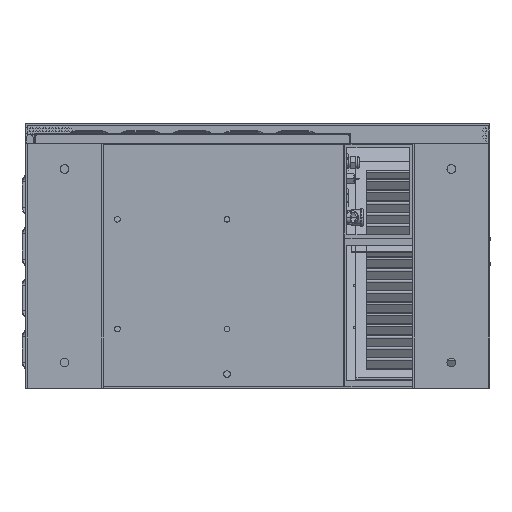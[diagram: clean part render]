
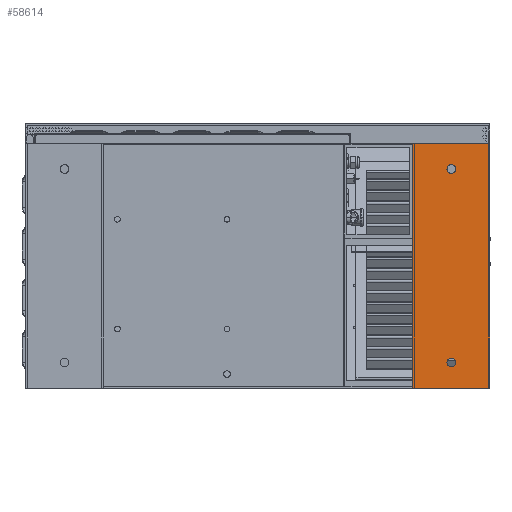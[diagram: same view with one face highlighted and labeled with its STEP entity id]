
A CAD part, front view. The second image highlights one B-rep face of the part: STEP entity #58614.
In plain terms, the highlighted planar face has unit normal (0, -1, 0).
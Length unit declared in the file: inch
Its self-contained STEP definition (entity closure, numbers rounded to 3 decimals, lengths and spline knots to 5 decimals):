
#839 = CARTESIAN_POINT ( 'NONE',  ( 30., 0., -19. ) ) ;
#1227 = DIRECTION ( 'NONE',  ( 0., 0., 1. ) ) ;
#1790 = EDGE_CURVE ( 'NONE', #6062, #8279, #51695, .T. ) ;
#2808 = EDGE_CURVE ( 'NONE', #3883, #3307, #14406, .T. ) ;
#3279 = DIRECTION ( 'NONE',  ( 0., 0., -1. ) ) ;
#3307 = VERTEX_POINT ( 'NONE', #24725 ) ;
#3837 = AXIS2_PLACEMENT_3D ( 'NONE', #22077, #55900, #26929 ) ;
#3883 = VERTEX_POINT ( 'NONE', #20477 ) ;
#5070 = EDGE_LOOP ( 'NONE', ( #54969, #13299, #47454, #29661 ) ) ;
#5279 = AXIS2_PLACEMENT_3D ( 'NONE', #20509, #54330, #25304 ) ;
#5443 = CARTESIAN_POINT ( 'NONE',  ( 30., 0., 0. ) ) ;
#6062 = VERTEX_POINT ( 'NONE', #8423 ) ;
#6357 = LINE ( 'NONE', #34102, #56247 ) ;
#8279 = VERTEX_POINT ( 'NONE', #46332 ) ;
#8423 = CARTESIAN_POINT ( 'NONE',  ( 33., 0., -16.6625 ) ) ;
#10098 = EDGE_CURVE ( 'NONE', #16630, #3307, #41380, .T. ) ;
#11000 = FACE_BOUND ( 'NONE', #53934, .T. ) ;
#12407 = CARTESIAN_POINT ( 'NONE',  ( 33., 0., -17. ) ) ;
#13299 = ORIENTED_EDGE ( 'NONE', *, *, #56111, .F. ) ;
#14121 = VECTOR ( 'NONE', #47483, 39.37008 ) ;
#14406 = LINE ( 'NONE', #59133, #38635 ) ;
#16630 = VERTEX_POINT ( 'NONE', #5443 ) ;
#17325 = DIRECTION ( 'NONE',  ( 0., 0., -1. ) ) ;
#17489 = AXIS2_PLACEMENT_3D ( 'NONE', #12407, #46310, #17325 ) ;
#18492 = CARTESIAN_POINT ( 'NONE',  ( 30., 0., 0. ) ) ;
#19106 = CIRCLE ( 'NONE', #5279, 0.3375 ) ;
#19972 = DIRECTION ( 'NONE',  ( 0., 0., 1. ) ) ;
#20050 = EDGE_CURVE ( 'NONE', #8279, #6062, #56809, .T. ) ;
#20477 = CARTESIAN_POINT ( 'NONE',  ( 36., 0., -19. ) ) ;
#20509 = CARTESIAN_POINT ( 'NONE',  ( 33., 0., -2. ) ) ;
#21279 = DIRECTION ( 'NONE',  ( 0., -1., 0. ) ) ;
#22077 = CARTESIAN_POINT ( 'NONE',  ( 33., 0., -17. ) ) ;
#22363 = FACE_BOUND ( 'NONE', #40775, .T. ) ;
#22866 = ORIENTED_EDGE ( 'NONE', *, *, #25488, .F. ) ;
#23823 = ORIENTED_EDGE ( 'NONE', *, *, #1790, .F. ) ;
#24725 = CARTESIAN_POINT ( 'NONE',  ( 36., 0., 0. ) ) ;
#25304 = DIRECTION ( 'NONE',  ( 0., 0., -1. ) ) ;
#25439 = ORIENTED_EDGE ( 'NONE', *, *, #20050, .F. ) ;
#25488 = EDGE_CURVE ( 'NONE', #59097, #42591, #19106, .T. ) ;
#25911 = PLANE ( 'NONE',  #33463 ) ;
#26929 = DIRECTION ( 'NONE',  ( 0., 0., -1. ) ) ;
#28237 = CARTESIAN_POINT ( 'NONE',  ( 30., 0., -19. ) ) ;
#29221 = LINE ( 'NONE', #28237, #53432 ) ;
#29661 = ORIENTED_EDGE ( 'NONE', *, *, #2808, .T. ) ;
#32265 = DIRECTION ( 'NONE',  ( 0., -1., 0. ) ) ;
#33463 = AXIS2_PLACEMENT_3D ( 'NONE', #50256, #21279, #55105 ) ;
#34102 = CARTESIAN_POINT ( 'NONE',  ( 30., 0., -19. ) ) ;
#35207 = FACE_OUTER_BOUND ( 'NONE', #5070, .T. ) ;
#35209 = EDGE_CURVE ( 'NONE', #42591, #59097, #38312, .T. ) ;
#37943 = DIRECTION ( 'NONE',  ( 1., 0., 0. ) ) ;
#38312 = CIRCLE ( 'NONE', #54582, 0.3375 ) ;
#38635 = VECTOR ( 'NONE', #1227, 39.37008 ) ;
#39442 = CARTESIAN_POINT ( 'NONE',  ( 33., 0., -2.3375 ) ) ;
#40775 = EDGE_LOOP ( 'NONE', ( #54434, #22866 ) ) ;
#41380 = LINE ( 'NONE', #18492, #14121 ) ;
#42591 = VERTEX_POINT ( 'NONE', #39442 ) ;
#43426 = EDGE_CURVE ( 'NONE', #62521, #3883, #29221, .T. ) ;
#46310 = DIRECTION ( 'NONE',  ( 0., -1., 0. ) ) ;
#46332 = CARTESIAN_POINT ( 'NONE',  ( 33., 0., -17.3375 ) ) ;
#47454 = ORIENTED_EDGE ( 'NONE', *, *, #43426, .T. ) ;
#47483 = DIRECTION ( 'NONE',  ( 1., 0., 0. ) ) ;
#49767 = CARTESIAN_POINT ( 'NONE',  ( 33., 0., -1.6625 ) ) ;
#50256 = CARTESIAN_POINT ( 'NONE',  ( 30., 0., -19. ) ) ;
#51695 = CIRCLE ( 'NONE', #3837, 0.3375 ) ;
#53432 = VECTOR ( 'NONE', #37943, 39.37008 ) ;
#53934 = EDGE_LOOP ( 'NONE', ( #25439, #23823 ) ) ;
#54330 = DIRECTION ( 'NONE',  ( 0., -1., 0. ) ) ;
#54434 = ORIENTED_EDGE ( 'NONE', *, *, #35209, .F. ) ;
#54582 = AXIS2_PLACEMENT_3D ( 'NONE', #61177, #32265, #3279 ) ;
#54969 = ORIENTED_EDGE ( 'NONE', *, *, #10098, .F. ) ;
#55105 = DIRECTION ( 'NONE',  ( 0., 0., -1. ) ) ;
#55900 = DIRECTION ( 'NONE',  ( 0., -1., 0. ) ) ;
#56111 = EDGE_CURVE ( 'NONE', #62521, #16630, #6357, .T. ) ;
#56247 = VECTOR ( 'NONE', #19972, 39.37008 ) ;
#56809 = CIRCLE ( 'NONE', #17489, 0.3375 ) ;
#58614 = ADVANCED_FACE ( 'NONE', ( #11000, #22363, #35207 ), #25911, .T. ) ;
#59097 = VERTEX_POINT ( 'NONE', #49767 ) ;
#59133 = CARTESIAN_POINT ( 'NONE',  ( 36., 0., -19. ) ) ;
#61177 = CARTESIAN_POINT ( 'NONE',  ( 33., 0., -2. ) ) ;
#62521 = VERTEX_POINT ( 'NONE', #839 ) ;
